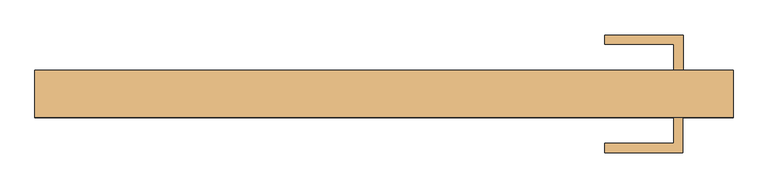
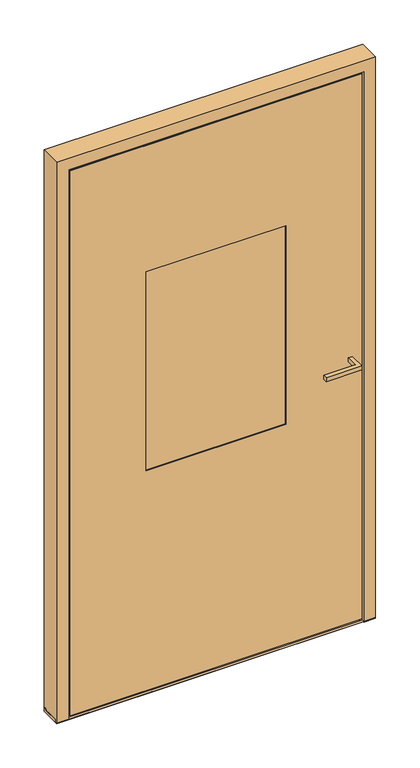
"""IFC4 building model written with IfcOpenShell, lengths in millimetres: door geometry, Reynaers_MasterLine 8_Door_Panel_Inward Opening_Single Vent_Spy Window : Reynaers_MasterLine 8_Door_Panel_Inward Opening_Single Vent_Spy Window."""

from ifc_helpers import new_model, si_unit, frame, origin, place, context, project, spatial, polyline, outline, extrude, faceted_brep, source, transform, mapped, element, save


def door_4a962635(model_context):
    return source(origin(), model_context, "Body", "SolidModel", [
        extrude(outline(polyline([(488.2934348, 80.0), (473.2934348, 80.0), (473.2934348, 122.5), (360.7934348, 122.5), (360.7934348, 137.5), (488.2934348, 137.5), (488.2934348, 80.0)])), frame((0.0, 0.0, 1001.0), z_axis=(0.0, 0.0, 1.0), x_axis=(1.0, 0.0, 0.0)), (0.0, 0.0, 1.0), 15.0),
        extrude(outline(polyline([(488.0, 3.0), (488.0, -54.5), (360.5, -54.5), (360.5, -39.5), (473.0, -39.5), (473.0, 3.0), (488.0, 3.0)])), frame((0.0, 0.0, 1001.0), z_axis=(0.0, 0.0, 1.0), x_axis=(1.0, 0.0, 0.0)), (0.0, 0.0, 1.0), 15.0),
        extrude(outline(polyline([(439.0, 6.0), (-439.0, 6.0), (-439.0, 77.0), (439.0, 77.0), (439.0, 6.0)])), frame((0.0, 0.0, 96.5), z_axis=(0.0, 0.0, 1.0), x_axis=(1.0, 0.0, 0.0)), (0.0, 0.0, 1.0), 677.4478141),
        extrude(outline(polyline([(1989.0, 439.0), (1989.0, -439.0), (819.0, -439.0), (819.0, -275.0), (1619.0, -275.0), (1619.0, 275.0), (819.0, 275.0), (819.0, 439.0), (1989.0, 439.0)])), frame((0.0, 6.0, 0.0), z_axis=(0.0, 1.0, 0.0), x_axis=(0.0, 0.0, 1.0)), (0.0, 0.0, 1.0), 71.0),
        extrude(outline(polyline([(2071.5, 521.5), (2071.5, -521.5), (14.0, -521.5), (14.0, 521.5), (2071.5, 521.5)]), holes=[polyline([(844.0, 250.0), (844.0, -250.0), (1594.0, -250.0), (1594.0, 250.0), (844.0, 250.0)])]), frame((0.0, 3.0, 0.0), z_axis=(0.0, 1.0, 0.0), x_axis=(0.0, 0.0, 1.0)), (0.0, 0.0, 1.0), 3.0),
        extrude(outline(polyline([(2045.5, 495.5), (2045.5, -495.5), (37.0, -495.5), (37.0, 495.5), (2045.5, 495.5)]), holes=[polyline([(844.0, 250.0), (844.0, -250.0), (1594.0, -250.0), (1594.0, 250.0), (844.0, 250.0)])]), frame((0.0, 77.0, 0.0), z_axis=(0.0, 1.0, 0.0), x_axis=(0.0, 0.0, 1.0)), (0.0, 0.0, 1.0), 3.0),
        extrude(outline(polyline([(270.0, 73.0), (270.0, 10.0), (-270.0, 10.0), (-270.0, 73.0), (270.0, 73.0)])), frame((0.0, 0.0, 824.0), z_axis=(0.0, 0.0, 1.0), x_axis=(1.0, 0.0, 0.0)), (0.0, 0.0, 1.0), 790.0),
        extrude(outline(polyline([(501.5, 39.0164985), (501.5, 19.499681), (-501.5, 19.499681), (-501.5, 39.0164985), (501.5, 39.0164985)])), frame((0.0, 0.0, 1.0), z_axis=(0.0, 0.0, 1.0), x_axis=(1.0, 0.0, 0.0)), (0.0, 0.0, 1.0), 28.0029484),
        extrude(outline(polyline([(501.5, 80.0), (501.5, 76.7), (-501.5, 76.7), (-501.5, 80.0), (501.5, 80.0)])), frame((0.0, 0.0, 11.0), z_axis=(0.0, 0.0, 1.0), x_axis=(1.0, 0.0, 0.0)), (0.0, 0.0, 1.0), 26.0),
        extrude(outline(polyline([(3.0, 1.9998842), (12.0, 2.4715542), (12.0, 12.0), (66.0392099, 12.0), (72.2418049, 19.3919648), (80.0, 13.9596181), (80.0, 1.0), (3.0, 1.0), (3.0, 1.9998842)])), frame((-570.0, 0.0, 0.0), z_axis=(1.0, 0.0, 0.0), x_axis=(0.0, 1.0, 0.0)), (0.0, 0.0, 1.0), 1140.0),
        faceted_brep([(-501.5, 76.2001836, 0.0), (-516.5, 76.2001836, 0.0), (-516.5, 11.8, 0.0), (-527.5, 11.8, 0.0), (-527.5, 3.0, 0.0), (-570.0, 3.0, 0.0), (-570.0, 80.0, 0.0), (-501.5, 80.0, 0.0), (-501.5, 76.2001836, 2051.5), (501.5, 76.2001836, 2051.5), (501.5, 76.2001836, 0.0), (516.5, 76.2001836, 0.0), (516.5, 76.2001836, 2066.5), (-516.5, 76.2001836, 2066.5), (-570.0, 3.0, 2120.0), (-570.0, 80.0, 2120.0), (570.0, 80.0, 2120.0), (570.0, 80.0, 0.0), (501.5, 80.0, 0.0), (501.5, 80.0, 2051.5), (-501.5, 80.0, 2051.5), (570.0, 3.0, 2120.0), (570.0, 3.0, 0.0), (527.5, 3.0, 0.0), (527.5, 11.8, 0.0), (516.5, 11.8, 0.0), (-516.5, 11.8, 2066.5), (-527.5, 3.0, 2077.5), (527.5, 3.0, 2077.5), (516.5, 11.8, 2066.5), (527.5, 11.8, 2077.5), (-527.5, 11.8, 2077.5)], [[[0, 1, 2, 3, 4, 5, 6, 7]], [[1, 0, 8, 9, 10, 11, 12, 13]], [[6, 5, 14, 15]], [[7, 6, 15, 16, 17, 18, 19, 20]], [[0, 7, 20, 8]], [[15, 14, 21, 16]], [[9, 8, 20, 19]], [[11, 10, 18, 17, 22, 23, 24, 25]], [[17, 16, 21, 22]], [[10, 9, 19, 18]], [[2, 1, 13, 26]], [[5, 4, 27, 28, 23, 22, 21, 14]], [[13, 12, 29, 26]], [[12, 11, 25, 29]], [[3, 2, 26, 29, 25, 24, 30, 31]], [[4, 3, 31, 27]], [[28, 27, 31, 30]], [[24, 23, 28, 30]]]),
        faceted_brep([(-444.0, 6.0, 1994.0), (-444.0, 77.0, 1994.0), (444.0, 77.0, 1994.0), (444.0, 6.0, 1994.0), (-495.5, 11.8, 2045.5), (-495.5, 6.0, 2045.5), (495.5, 6.0, 2045.5), (495.5, 11.8, 2045.5), (444.0, 77.0, 91.5), (444.0, 6.0, 91.5), (495.5, 6.0, 40.0), (495.5, 11.8, 40.0), (-444.0, 77.0, 91.5), (-444.0, 6.0, 91.5), (-495.5, 6.0, 40.0), (-495.5, 11.8, 40.0), (-506.5, 11.8, 2056.5), (-506.5, 11.8, 29.0), (506.5, 11.8, 29.0), (506.5, 11.8, 2056.5), (506.5, 71.2001837, 2056.5), (-506.5, 71.2001837, 2056.5), (-495.5, 77.0, 2045.5), (-495.5, 71.2001837, 2045.5), (495.5, 71.2001837, 2045.5), (495.5, 77.0, 2045.5), (506.5, 71.2001837, 29.0), (495.5, 71.2001837, 40.0), (495.5, 77.0, 40.0), (-506.5, 71.2001837, 29.0), (-495.5, 71.2001837, 40.0), (-495.5, 77.0, 40.0)], [[[0, 1, 2, 3]], [[4, 5, 6, 7]], [[3, 2, 8, 9]], [[7, 6, 10, 11]], [[9, 8, 12, 13]], [[11, 10, 14, 15]], [[1, 0, 13, 12]], [[6, 5, 14, 10], [0, 3, 9, 13]], [[5, 4, 15, 14]], [[16, 17, 18, 19], [4, 7, 11, 15]], [[16, 19, 20, 21]], [[22, 23, 24, 25]], [[19, 18, 26, 20]], [[25, 24, 27, 28]], [[18, 17, 29, 26]], [[28, 27, 30, 31]], [[17, 16, 21, 29]], [[21, 20, 26, 29], [24, 23, 30, 27]], [[23, 22, 31, 30]], [[22, 25, 28, 31], [2, 1, 12, 8]]]),
        extrude(outline(polyline([(76.6, 819.0), (76.6, 778.9998076), (74.6, 778.9998076), (74.6, 784.0043308), (33.5952776, 784.0043308), (33.5952776, 779.0), (6.4, 779.0), (6.4, 819.0), (33.6019389, 819.0), (33.6019389, 813.9954768), (74.6, 813.9954768), (74.6, 819.0), (76.6, 819.0)])), frame((-444.0, 0.0, 0.0), z_axis=(1.0, 0.0, 0.0), x_axis=(0.0, 1.0, 0.0)), (0.0, 0.0, 1.0), 888.0),
    ])


if __name__ == "__main__":
    model = new_model("IFC4")
    model_context = context("Model", 3, world=origin())
    ifc_project = project(units=[si_unit("LENGTHUNIT", "METRE", prefix="MILLI")], contexts=[model_context])
    site = spatial("IfcSite", under=ifc_project)
    building = spatial("IfcBuilding", under=site)
    placement = place(None, origin())
    door_shape = door_4a962635(model_context)
    element("IfcDoor", 1, ObjectType="Reynaers_MasterLine 8_Door_Panel_Inward Opening_Single Vent_Spy Window : Reynaers_MasterLine 8_Door_Panel_Inward Opening_Single Vent_Spy Window", at=placement, inside=building, context=model_context, shape_type="MappedRepresentation", body=[
        mapped(door_shape, transform((0.0, 0.0, 0.0), x_axis=(1.0, 0.0, 0.0), y_axis=(0.0, 1.0, 0.0), z_axis=(0.0, 0.0, 1.0))),
    ])
    save(model, "model.ifc")
